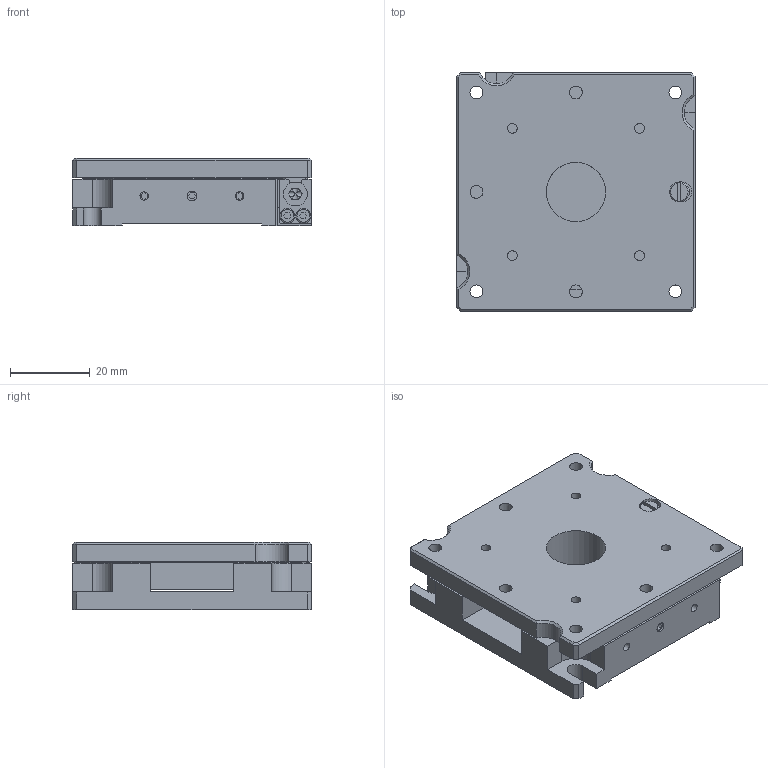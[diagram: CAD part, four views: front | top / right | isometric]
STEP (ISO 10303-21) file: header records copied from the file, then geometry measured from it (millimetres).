
FILE_DESCRIPTION((''),'2;1');
FILE_NAME('S:\1規格品図面ﾃﾞｰﾀ\OpticalHard\01_国内製品\1_Stags\KSSA\KSSA-606\KSSA-606.stp','2007-09-06T13:09:28',('okegawa'),(''),'Autodesk Inventor 11','Autodesk Inventor 11','');
FILE_SCHEMA(('AUTOMOTIVE_DESIGN { 1 0 10303 214 1 1 1 1 }'));
Length unit declared in the file: millimetre
Products named in the file (3): KSSA60-M02-05001-C1-S03; KSSA60-M02-05001-C1-S01; KSSA60-M02-05001-C1-S02
Assembly tree (2 placements, depth 2):
  KSSA60-M02-05001-C1-S03
    KSSA60-M02-05001-C1-S01
    KSSA60-M02-05001-C1-S02
Bounding box: 60.04 x 60 x 17 mm (x, y, z)
Volume: 46783.2 mm3; surface area: 22582.4 mm2
Topology: 2 solids, 6 shells, 337 faces, 904 edges, 590 vertices
Faces by surface type: plane 227, cylinder 51, bspline 35, cone 24
Full cylindrical faces by diameter (mm): 1.5 x4, 2 x2, 2.2 x1, 2.6 x3, 3 x1, 3.8 x2, 4 x1, 6 x2
Entity records: 10958 total; most frequent: CARTESIAN_POINT 2991, ORIENTED_EDGE 1594, DIRECTION 1549, EDGE_CURVE 797, VECTOR 567, LINE 567, VERTEX_POINT 545, AXIS2_PLACEMENT_3D 491
